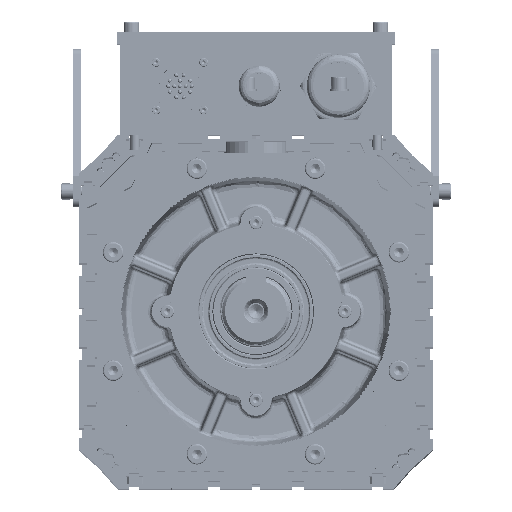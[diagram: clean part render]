
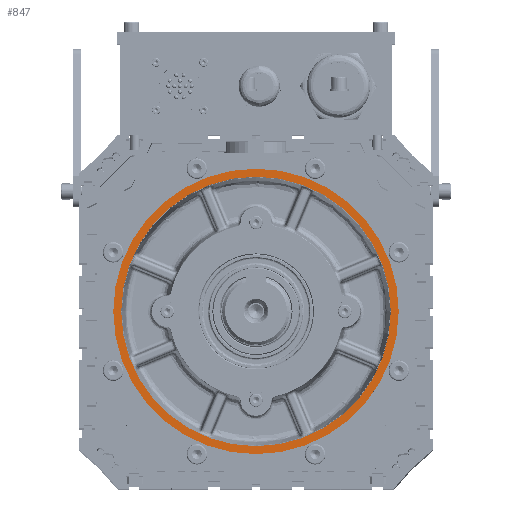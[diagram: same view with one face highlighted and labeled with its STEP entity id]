
A CAD part, top view. The second image highlights one B-rep face of the part: STEP entity #847.
In plain terms, the highlighted planar face has unit normal (0, 0, 1) as drawn and (0, 0, -1) by its records, which use the part's own axes.
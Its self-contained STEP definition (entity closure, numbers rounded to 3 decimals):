
#847 = ADVANCED_FACE ( 'NONE', ( #164595, #160010 ), #162523, .F. ) ;
#1361 = DIRECTION ( 'NONE',  ( 0., 0., -1. ) ) ;
#4024 = DIRECTION ( 'NONE',  ( 0., 0., 1. ) ) ;
#6510 = DIRECTION ( 'NONE',  ( 0., 0., 1. ) ) ;
#6584 = AXIS2_PLACEMENT_3D ( 'NONE', #39981, #67994, #127819 ) ;
#12995 = AXIS2_PLACEMENT_3D ( 'NONE', #177966, #177319, #147462 ) ;
#21479 = EDGE_CURVE ( 'NONE', #148464, #70754, #133675, .T. ) ;
#35923 = EDGE_CURVE ( 'NONE', #70754, #148464, #49730, .T. ) ;
#39719 = AXIS2_PLACEMENT_3D ( 'NONE', #165035, #4024, #135103 ) ;
#39981 = CARTESIAN_POINT ( 'NONE',  ( -28.364, -25.305, 205. ) ) ;
#40216 = EDGE_CURVE ( 'NONE', #65782, #157370, #112209, .T. ) ;
#48991 = AXIS2_PLACEMENT_3D ( 'NONE', #137569, #6510, #110770 ) ;
#49730 = CIRCLE ( 'NONE', #12995, 85. ) ;
#54733 = ORIENTED_EDGE ( 'NONE', *, *, #21479, .F. ) ;
#65782 = VERTEX_POINT ( 'NONE', #96394 ) ;
#67994 = DIRECTION ( 'NONE',  ( 0., 0., 1. ) ) ;
#68067 = ORIENTED_EDGE ( 'NONE', *, *, #102528, .F. ) ;
#70047 = CARTESIAN_POINT ( 'NONE',  ( -28.364, -25.305, 205. ) ) ;
#70754 = VERTEX_POINT ( 'NONE', #116255 ) ;
#86089 = EDGE_LOOP ( 'NONE', ( #68067, #110588 ) ) ;
#91397 = CARTESIAN_POINT ( 'NONE',  ( -113.364, -25.305, 205. ) ) ;
#96394 = CARTESIAN_POINT ( 'NONE',  ( 61.636, -25.305, 205. ) ) ;
#102528 = EDGE_CURVE ( 'NONE', #157370, #65782, #143984, .T. ) ;
#105272 = ORIENTED_EDGE ( 'NONE', *, *, #35923, .F. ) ;
#110588 = ORIENTED_EDGE ( 'NONE', *, *, #40216, .F. ) ;
#110770 = DIRECTION ( 'NONE',  ( -1., 0., 0. ) ) ;
#112209 = CIRCLE ( 'NONE', #48991, 90. ) ;
#116255 = CARTESIAN_POINT ( 'NONE',  ( 56.636, -25.305, 205. ) ) ;
#127819 = DIRECTION ( 'NONE',  ( -1., 0., 0. ) ) ;
#132407 = DIRECTION ( 'NONE',  ( -1., 0., 0. ) ) ;
#133675 = CIRCLE ( 'NONE', #179416, 85. ) ;
#135103 = DIRECTION ( 'NONE',  ( 1., 0., 0. ) ) ;
#135537 = CARTESIAN_POINT ( 'NONE',  ( -118.364, -25.305, 205. ) ) ;
#137569 = CARTESIAN_POINT ( 'NONE',  ( -28.364, -25.305, 205. ) ) ;
#143984 = CIRCLE ( 'NONE', #6584, 90. ) ;
#147462 = DIRECTION ( 'NONE',  ( -1., 0., 0. ) ) ;
#148464 = VERTEX_POINT ( 'NONE', #91397 ) ;
#157370 = VERTEX_POINT ( 'NONE', #135537 ) ;
#160010 = FACE_BOUND ( 'NONE', #168457, .T. ) ;
#162523 = PLANE ( 'NONE',  #39719 ) ;
#164595 = FACE_OUTER_BOUND ( 'NONE', #86089, .T. ) ;
#165035 = CARTESIAN_POINT ( 'NONE',  ( -28.364, -115.305, 205. ) ) ;
#168457 = EDGE_LOOP ( 'NONE', ( #54733, #105272 ) ) ;
#177319 = DIRECTION ( 'NONE',  ( 0., 0., -1. ) ) ;
#177966 = CARTESIAN_POINT ( 'NONE',  ( -28.364, -25.305, 205. ) ) ;
#179416 = AXIS2_PLACEMENT_3D ( 'NONE', #70047, #1361, #132407 ) ;
